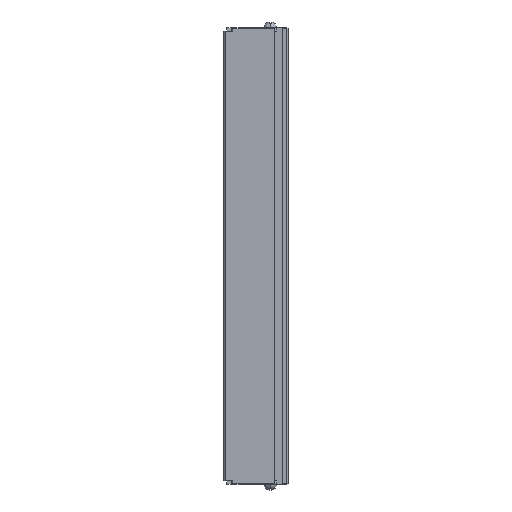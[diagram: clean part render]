
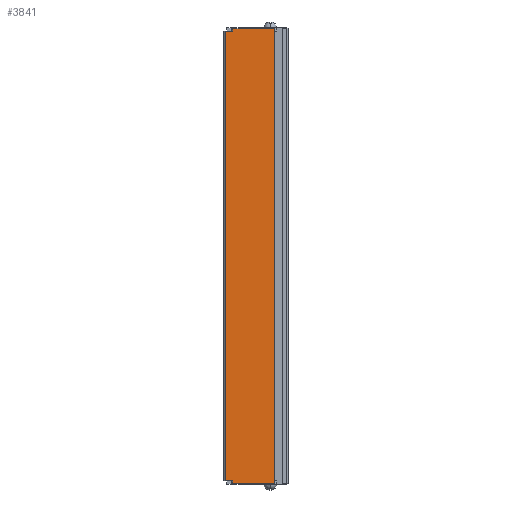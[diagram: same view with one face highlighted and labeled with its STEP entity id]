
A CAD part, left-side view. The second image highlights one B-rep face of the part: STEP entity #3841.
In plain terms, the highlighted planar face has unit normal (-1, 0, 0).
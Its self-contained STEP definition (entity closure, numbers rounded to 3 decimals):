
#1011=DIRECTION('',(0.,1.,0.));
#1012=VECTOR('',#1011,3.303);
#1013=CARTESIAN_POINT('',(-14.,13.197,94.5));
#1014=LINE('',#1013,#1012);
#1167=DIRECTION('',(0.,0.,1.));
#1168=VECTOR('',#1167,1.);
#1169=CARTESIAN_POINT('',(-14.,13.197,-95.5));
#1170=LINE('',#1169,#1168);
#1171=DIRECTION('',(0.,1.,0.));
#1172=VECTOR('',#1171,3.303);
#1173=CARTESIAN_POINT('',(-14.,13.197,-94.5));
#1174=LINE('',#1173,#1172);
#1175=DIRECTION('',(0.,0.,1.));
#1176=VECTOR('',#1175,1.);
#1177=CARTESIAN_POINT('',(-14.,13.197,94.5));
#1178=LINE('',#1177,#1176);
#1183=DIRECTION('',(0.,0.,1.));
#1184=VECTOR('',#1183,191.);
#1185=CARTESIAN_POINT('',(-14.,-4.3,-95.5));
#1186=LINE('',#1185,#1184);
#1613=DIRECTION('',(0.,-1.,0.));
#1614=VECTOR('',#1613,17.497);
#1615=CARTESIAN_POINT('',(-14.,13.197,-95.5));
#1616=LINE('',#1615,#1614);
#1633=DIRECTION('',(0.,1.,0.));
#1634=VECTOR('',#1633,17.497);
#1635=CARTESIAN_POINT('',(-14.,-4.3,95.5));
#1636=LINE('',#1635,#1634);
#1637=DIRECTION('',(0.,0.,-1.));
#1638=VECTOR('',#1637,189.);
#1639=CARTESIAN_POINT('',(-14.,16.5,94.5));
#1640=LINE('',#1639,#1638);
#1811=CARTESIAN_POINT('',(-14.,16.5,-94.5));
#1812=VERTEX_POINT('',#1811);
#1821=CARTESIAN_POINT('',(-14.,16.5,94.5));
#1822=VERTEX_POINT('',#1821);
#2027=CARTESIAN_POINT('',(-14.,13.197,95.5));
#2028=VERTEX_POINT('',#2027);
#2053=CARTESIAN_POINT('',(-14.,-4.3,95.5));
#2054=VERTEX_POINT('',#2053);
#2099=CARTESIAN_POINT('',(-14.,13.197,94.5));
#2101=VERTEX_POINT('',#2099);
#2247=CARTESIAN_POINT('',(-14.,13.197,-95.5));
#2248=VERTEX_POINT('',#2247);
#2249=CARTESIAN_POINT('',(-14.,-4.3,-95.5));
#2250=VERTEX_POINT('',#2249);
#2285=CARTESIAN_POINT('',(-14.,13.197,-94.5));
#2286=VERTEX_POINT('',#2285);
#3821=CARTESIAN_POINT('',(-14.,16.5,-94.5));
#3822=DIRECTION('',(-1.,0.,0.));
#3823=DIRECTION('',(0.,-1.,0.));
#3824=AXIS2_PLACEMENT_3D('',#3821,#3822,#3823);
#3825=PLANE('',#3824);
#3827=ORIENTED_EDGE('',*,*,#3826,.F.);
#3829=ORIENTED_EDGE('',*,*,#3828,.F.);
#3831=ORIENTED_EDGE('',*,*,#3830,.T.);
#3832=ORIENTED_EDGE('',*,*,#2422,.T.);
#3834=ORIENTED_EDGE('',*,*,#3833,.F.);
#3835=ORIENTED_EDGE('',*,*,#3592,.F.);
#3836=ORIENTED_EDGE('',*,*,#3545,.T.);
#3838=ORIENTED_EDGE('',*,*,#3837,.F.);
#3839=EDGE_LOOP('',(#3827,#3829,#3831,#3832,#3834,#3835,#3836,#3838));
#3840=FACE_OUTER_BOUND('',#3839,.F.);
#2422=EDGE_CURVE('',#2286,#1812,#1174,.T.);
#3545=EDGE_CURVE('',#2101,#2028,#1178,.T.);
#3592=EDGE_CURVE('',#2101,#1822,#1014,.T.);
#3826=EDGE_CURVE('',#2250,#2054,#1186,.T.);
#3828=EDGE_CURVE('',#2248,#2250,#1616,.T.);
#3830=EDGE_CURVE('',#2248,#2286,#1170,.T.);
#3833=EDGE_CURVE('',#1822,#1812,#1640,.T.);
#3837=EDGE_CURVE('',#2054,#2028,#1636,.T.);
#3841=ADVANCED_FACE('',(#3840),#3825,.T.);
